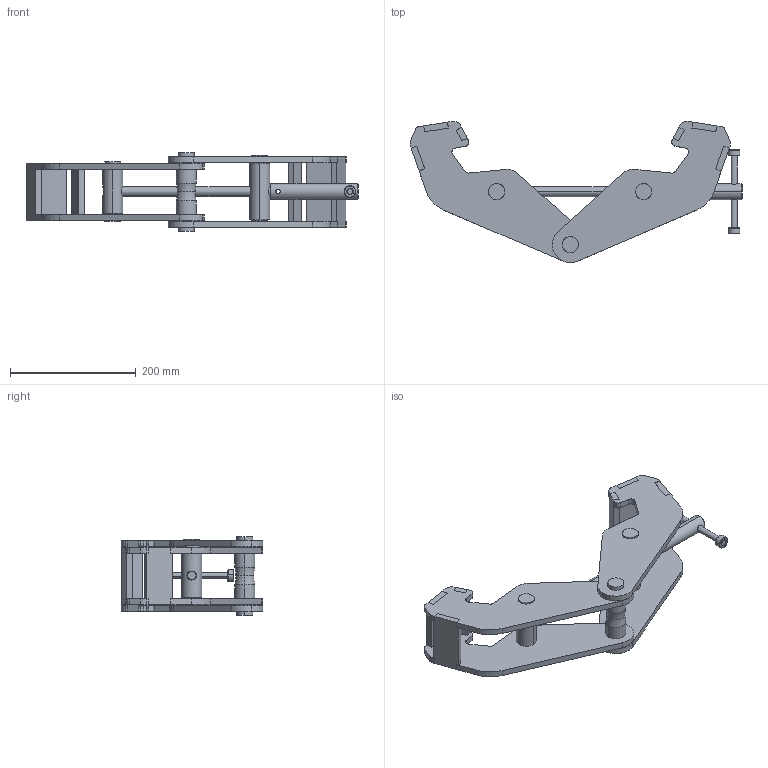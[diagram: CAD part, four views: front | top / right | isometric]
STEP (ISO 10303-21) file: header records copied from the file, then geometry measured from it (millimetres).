
FILE_DESCRIPTION (( 'STEP AP214' ), '1' );
FILE_NAME ('OZ5BC.STEP', '2023-03-28T13:31:05', ( '' ), ( '' ), 'SwSTEP 2.0', 'SolidWorks 2021', '' );
FILE_SCHEMA (( 'AUTOMOTIVE_DESIGN' ));
Length unit declared in the file: inch
Products named in the file (15): OZ5BC-LP01; OZ5BC-TR01; OZ5BC-PP01; OZ5BC-WP03; OZ5BC-PP02; OZ3BC-HANDLE; OZ5BC; OZ5BC-WELDMENT_Assembly; OZ5BC-WP02; OZ3BC-RE01-A-CI; OZ5BC-WP04; OZ5BC-SP01; OZ3BC-HB01-A-CI; OZ3BC-HR01-A-CI; OZ5BC-WP01
Assembly tree (20 placements, depth 3):
  OZ5BC
    OZ5BC-WELDMENT_Assembly
      OZ5BC-LP01
      OZ5BC-SP01  x4
      OZ5BC-WP01
      OZ5BC-WP03  x2
      OZ5BC-PP01
      OZ5BC-WP02
      OZ5BC-WP04  x2
      OZ5BC-PP02
    OZ5BC-TR01
    OZ3BC-HANDLE
      OZ3BC-HB01-A-CI
      OZ3BC-HR01-A-CI
      OZ3BC-RE01-A-CI  x2
Bounding box: 527.74 x 224.64 x 124.71 mm (x, y, z)
Volume: 1495190.9 mm3; surface area: 368110.6 mm2
Topology: 18 solids, 18 shells, 368 faces, 920 edges, 596 vertices
Faces by surface type: plane 200, cylinder 110, cone 26, torus 16, bspline 16
Entity records: 21026 total; most frequent: CARTESIAN_POINT 15395, DIRECTION 1020, ORIENTED_EDGE 992, EDGE_CURVE 496, AXIS2_PLACEMENT_3D 367, VERTEX_POINT 316, VECTOR 286, LINE 286
